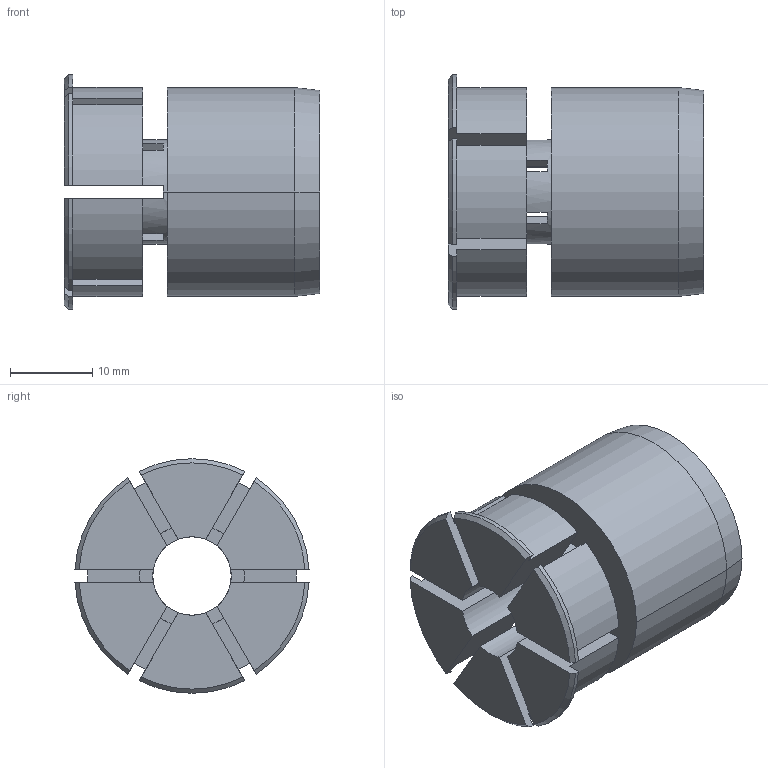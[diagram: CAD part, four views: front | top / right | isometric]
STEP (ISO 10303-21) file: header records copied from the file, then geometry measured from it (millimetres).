
FILE_DESCRIPTION(('STEP AP214'),'1');
FILE_NAME('REDUZIEREINSATZ HS35-9.525-11084462.stp','2018-09-24T08:23:53',(' '),(' '),'Spatial InterOp 3D',' ',' ');
FILE_SCHEMA(('automotive_design'));
Length unit declared in the file: millimetre
Products named in the file (1): 1
Bounding box: 31 x 28.46 x 28.5 mm (x, y, z)
Volume: 11658.3 mm3; surface area: 5722.4 mm2
Topology: 1 solids, 1 shells, 64 faces, 184 edges, 122 vertices
Faces by surface type: plane 38, cylinder 18, cone 8
Entity records: 2648 total; most frequent: CARTESIAN_POINT 395, DIRECTION 370, ORIENTED_EDGE 368, EDGE_CURVE 184, AXIS2_PLACEMENT_3D 133, VERTEX_POINT 122, LINE 104, VECTOR 104
